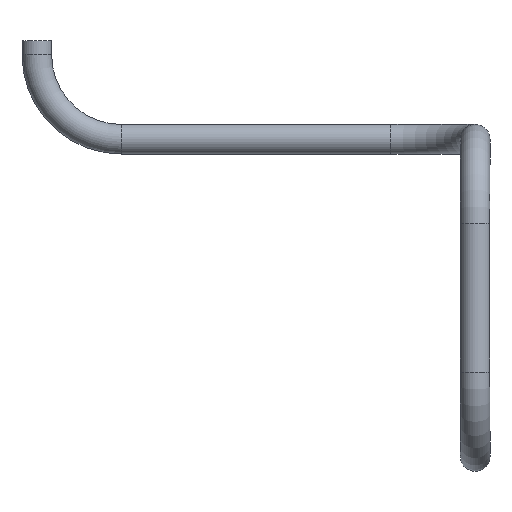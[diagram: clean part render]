
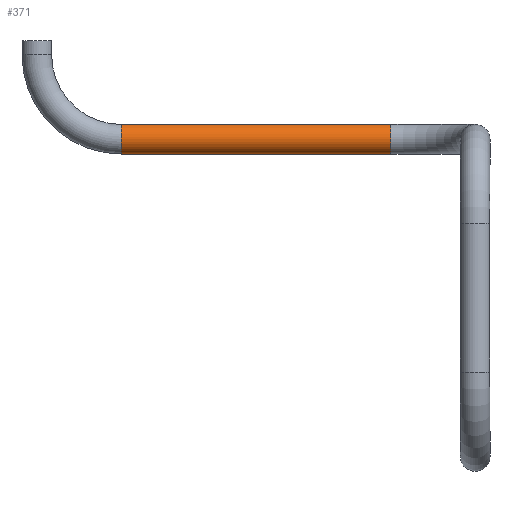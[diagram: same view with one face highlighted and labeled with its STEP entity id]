
A CAD part, left-side view. The second image highlights one B-rep face of the part: STEP entity #371.
In plain terms, the highlighted cylindrical face has radius 0.525 mm (diameter 1.05 mm), a full revolution.
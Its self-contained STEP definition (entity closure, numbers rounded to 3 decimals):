
#305 = TOROIDAL_SURFACE('',#306,3.,0.525);
#306 = AXIS2_PLACEMENT_3D('',#307,#308,#309);
#307 = CARTESIAN_POINT('',(-4.27,-21.99,-9.5));
#308 = DIRECTION('',(-0.,0.,1.));
#309 = DIRECTION('',(0.,-1.,0.));
#322 = VERTEX_POINT('',#323);
#323 = CARTESIAN_POINT('',(-1.27,-21.99,-8.975));
#344 = EDGE_CURVE('',#322,#322,#345,.T.);
#345 = SURFACE_CURVE('',#346,(#351,#358),.PCURVE_S1.);
#346 = CIRCLE('',#347,0.525);
#347 = AXIS2_PLACEMENT_3D('',#348,#349,#350);
#348 = CARTESIAN_POINT('',(-1.27,-21.99,-9.5));
#349 = DIRECTION('',(0.,-1.,0.));
#350 = DIRECTION('',(1.,0.,0.));
#351 = PCURVE('',#305,#352);
#352 = DEFINITIONAL_REPRESENTATION('',(#353),#357);
#353 = LINE('',#354,#355);
#354 = CARTESIAN_POINT('',(1.571,0.));
#355 = VECTOR('',#356,1.);
#356 = DIRECTION('',(0.,1.));
#357 = ( GEOMETRIC_REPRESENTATION_CONTEXT(2) 
PARAMETRIC_REPRESENTATION_CONTEXT() REPRESENTATION_CONTEXT('2D SPACE',''
  ) );
#358 = PCURVE('',#359,#364);
#359 = CYLINDRICAL_SURFACE('',#360,0.525);
#360 = AXIS2_PLACEMENT_3D('',#361,#362,#363);
#361 = CARTESIAN_POINT('',(-1.27,-21.99,-9.5));
#362 = DIRECTION('',(0.,1.,0.));
#363 = DIRECTION('',(0.,-0.,1.));
#364 = DEFINITIONAL_REPRESENTATION('',(#365),#368);
#365 = B_SPLINE_CURVE_WITH_KNOTS('',1,(#366,#367),.UNSPECIFIED.,.F.,.F.,
  (2,2),(1.571,7.854),.PIECEWISE_BEZIER_KNOTS.);
#366 = CARTESIAN_POINT('',(6.283,0.));
#367 = CARTESIAN_POINT('',(0.,0.));
#368 = ( GEOMETRIC_REPRESENTATION_CONTEXT(2) 
PARAMETRIC_REPRESENTATION_CONTEXT() REPRESENTATION_CONTEXT('2D SPACE',''
  ) );
#371 = ADVANCED_FACE('',(#372),#359,.T.);
#372 = FACE_BOUND('',#373,.T.);
#373 = EDGE_LOOP('',(#374,#396,#422,#423));
#374 = ORIENTED_EDGE('',*,*,#375,.T.);
#375 = EDGE_CURVE('',#322,#376,#378,.T.);
#376 = VERTEX_POINT('',#377);
#377 = CARTESIAN_POINT('',(-1.27,-12.428,-8.975));
#378 = SEAM_CURVE('',#379,(#383,#389),.PCURVE_S1.);
#379 = LINE('',#380,#381);
#380 = CARTESIAN_POINT('',(-1.27,-21.99,-8.975));
#381 = VECTOR('',#382,1.);
#382 = DIRECTION('',(0.,1.,0.));
#383 = PCURVE('',#359,#384);
#384 = DEFINITIONAL_REPRESENTATION('',(#385),#388);
#385 = B_SPLINE_CURVE_WITH_KNOTS('',1,(#386,#387),.UNSPECIFIED.,.F.,.F.,
  (2,2),(0.,9.562),.PIECEWISE_BEZIER_KNOTS.);
#386 = CARTESIAN_POINT('',(6.283,0.));
#387 = CARTESIAN_POINT('',(6.283,9.562));
#388 = ( GEOMETRIC_REPRESENTATION_CONTEXT(2) 
PARAMETRIC_REPRESENTATION_CONTEXT() REPRESENTATION_CONTEXT('2D SPACE',''
  ) );
#389 = PCURVE('',#359,#390);
#390 = DEFINITIONAL_REPRESENTATION('',(#391),#395);
#391 = LINE('',#392,#393);
#392 = CARTESIAN_POINT('',(0.,0.));
#393 = VECTOR('',#394,1.);
#394 = DIRECTION('',(0.,1.));
#395 = ( GEOMETRIC_REPRESENTATION_CONTEXT(2) 
PARAMETRIC_REPRESENTATION_CONTEXT() REPRESENTATION_CONTEXT('2D SPACE',''
  ) );
#396 = ORIENTED_EDGE('',*,*,#397,.F.);
#397 = EDGE_CURVE('',#376,#376,#398,.T.);
#398 = SURFACE_CURVE('',#399,(#404,#411),.PCURVE_S1.);
#399 = CIRCLE('',#400,0.525);
#400 = AXIS2_PLACEMENT_3D('',#401,#402,#403);
#401 = CARTESIAN_POINT('',(-1.27,-12.428,-9.5));
#402 = DIRECTION('',(0.,1.,0.));
#403 = DIRECTION('',(0.,-0.,1.));
#404 = PCURVE('',#359,#405);
#405 = DEFINITIONAL_REPRESENTATION('',(#406),#410);
#406 = LINE('',#407,#408);
#407 = CARTESIAN_POINT('',(0.,9.562));
#408 = VECTOR('',#409,1.);
#409 = DIRECTION('',(1.,0.));
#410 = ( GEOMETRIC_REPRESENTATION_CONTEXT(2) 
PARAMETRIC_REPRESENTATION_CONTEXT() REPRESENTATION_CONTEXT('2D SPACE',''
  ) );
#411 = PCURVE('',#412,#417);
#412 = TOROIDAL_SURFACE('',#413,3.,0.525);
#413 = AXIS2_PLACEMENT_3D('',#414,#415,#416);
#414 = CARTESIAN_POINT('',(-1.27,-12.428,-6.5));
#415 = DIRECTION('',(1.,-0.,0.));
#416 = DIRECTION('',(0.,0.,-1.));
#417 = DEFINITIONAL_REPRESENTATION('',(#418),#421);
#418 = B_SPLINE_CURVE_WITH_KNOTS('',1,(#419,#420),.UNSPECIFIED.,.F.,.F.,
  (2,2),(0.,6.283),.PIECEWISE_BEZIER_KNOTS.);
#419 = CARTESIAN_POINT('',(0.,9.425));
#420 = CARTESIAN_POINT('',(0.,3.142));
#421 = ( GEOMETRIC_REPRESENTATION_CONTEXT(2) 
PARAMETRIC_REPRESENTATION_CONTEXT() REPRESENTATION_CONTEXT('2D SPACE',''
  ) );
#422 = ORIENTED_EDGE('',*,*,#375,.F.);
#423 = ORIENTED_EDGE('',*,*,#344,.F.);
